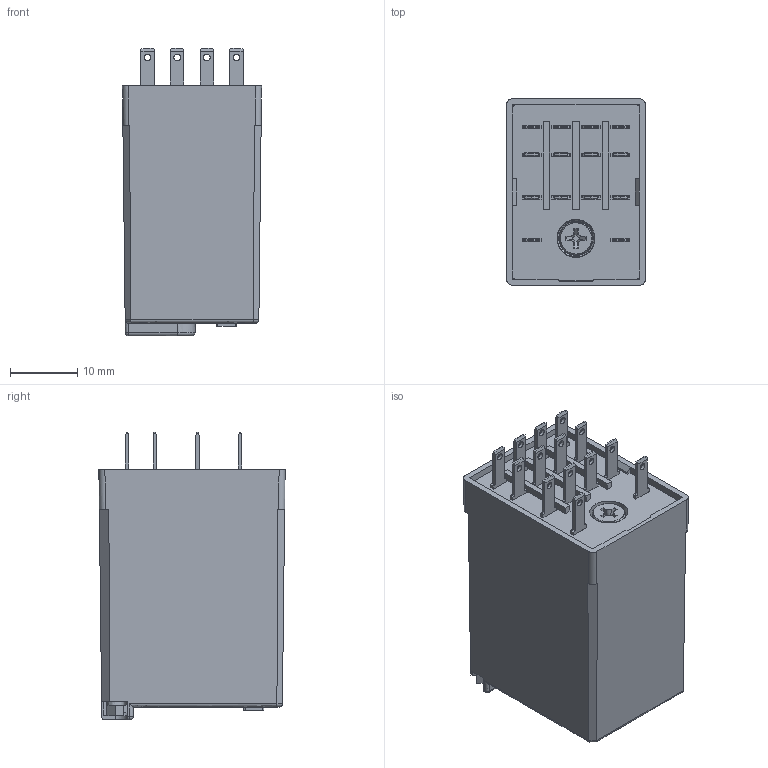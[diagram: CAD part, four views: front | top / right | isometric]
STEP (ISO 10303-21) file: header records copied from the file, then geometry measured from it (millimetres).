
FILE_DESCRIPTION(('STEP AP214'),'2;1');
FILE_NAME('5534.stp','2016-10-12T08:37:41',(''),(''),'2007.1.106','THINKDESIGN','');
FILE_SCHEMA(('AUTOMOTIVE_DESIGN'));
Length unit declared in the file: millimetre
Products named in the file (1): top
Bounding box: 20.7 x 27.7 x 42.81 mm (x, y, z)
Surface area: 7792.2 mm2 (no closed solid volume)
Topology: 0 solids, 0 shells, 353 faces, 2029 edges, 2011 vertices
Faces by surface type: bspline 353
Entity records: 13093 total; most frequent: CARTESIAN_POINT 7916, COMPOSITE_CURVE_SEGMENT 2027, QUASI_UNIFORM_CURVE 1435, OUTER_BOUNDARY_CURVE 353, CURVE_BOUNDED_SURFACE 353, STYLED_ITEM 353, B_SPLINE_CURVE_WITH_KNOTS 290, B_SPLINE_SURFACE_WITH_KNOTS 268
